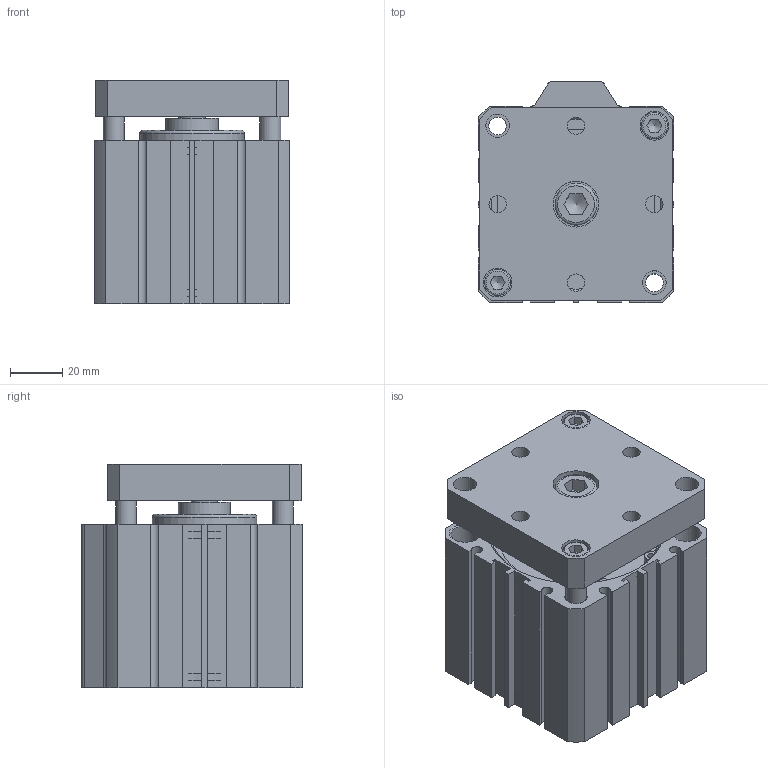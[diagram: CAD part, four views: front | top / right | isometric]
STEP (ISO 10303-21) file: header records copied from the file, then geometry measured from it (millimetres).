
FILE_DESCRIPTION((''),'2;1');
FILE_NAME('I:\3D電子目錄\氣缸\JTD\JTD\JTD63\JTD63x30.stp','2007-08-14T19:46:13',('Administrator'),(''),'Autodesk Inventor 11','Autodesk Inventor 11','');
FILE_SCHEMA(('AUTOMOTIVE_DESIGN { 1 0 10303 214 1 1 1 1 }'));
Length unit declared in the file: millimetre
Products named in the file (5): JTD63; R 形環 65; ISO 4762 M10 x 16; ISO 4762 M6 x 20
Assembly tree (6 placements, depth 2):
  JTD63
    JTD63
    R 形環 65  x2
    ISO 4762 M10 x 16
    ISO 4762 M6 x 20  x2
Bounding box: 75 x 84.5 x 85.5 mm (x, y, z)
Volume: 389816.3 mm3; surface area: 76442 mm2
Topology: 7 solids, 7 shells, 232 faces, 563 edges, 372 vertices
Faces by surface type: plane 136, cylinder 61, bspline 16, cone 14, torus 5
Full cylindrical faces by diameter (mm): 2.7 x4, 3 x2, 6 x2, 6.8 x2, 8 x2, 8.5 x2, 9 x2, 10 x3, 11 x4, 16 x1, 20 x1, 40 x1, 47 x1, 65 x4, 68 x2
Entity records: 6069 total; most frequent: CARTESIAN_POINT 1279, DIRECTION 964, ORIENTED_EDGE 866, EDGE_CURVE 433, AXIS2_PLACEMENT_3D 342, VERTEX_POINT 321, EDGE_LOOP 316, VECTOR 280
